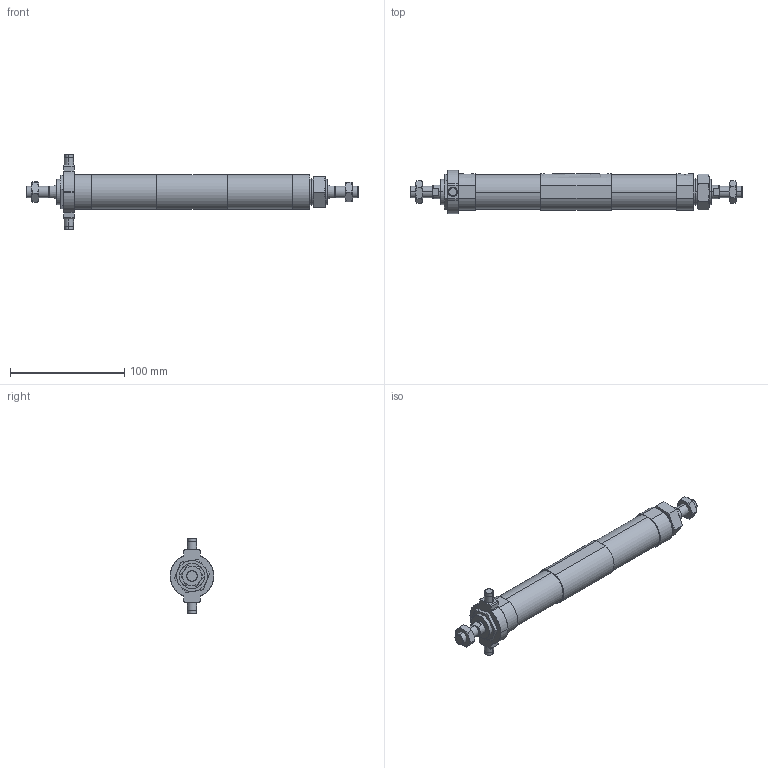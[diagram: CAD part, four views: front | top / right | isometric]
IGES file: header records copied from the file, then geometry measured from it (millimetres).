
Start section: SolidWorks IGES file using analytic representation for surfaces
Global section: file name: C:\Users\Toshiba\Desktop\JGD7-25-25-25-T.IGS; native system: SolidWorks 2014; preprocessor: SolidWorks 2014; author: Toshiba; date: 160419.152321; units: millimetre
Bounding box: 290 x 38 x 66 mm (x, y, z)
Surface area: 42609.8 mm2 (no closed solid volume)
Topology: 0 solids, 0 shells, 211 faces, 3588 edges, 3580 vertices
Faces by surface type: bspline 124, revolution 87
